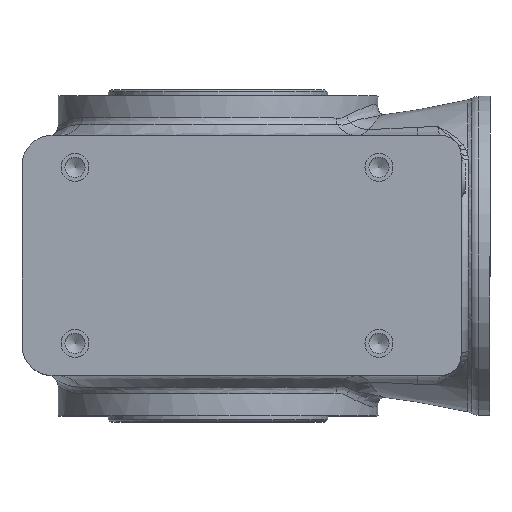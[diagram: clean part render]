
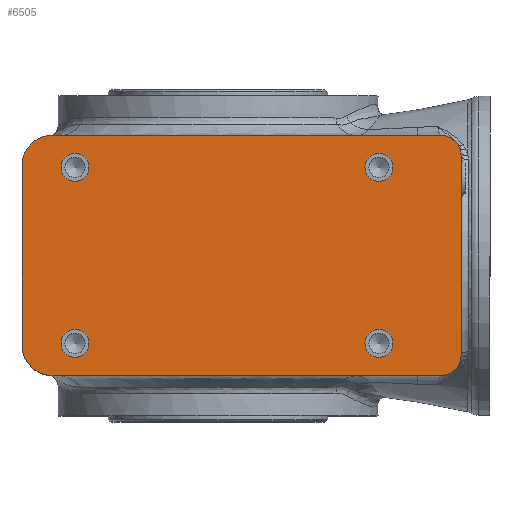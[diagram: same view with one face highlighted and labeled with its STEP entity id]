
A CAD part, front view. The second image highlights one B-rep face of the part: STEP entity #6505.
In plain terms, the highlighted planar face has unit normal (0, -1, 0.002).
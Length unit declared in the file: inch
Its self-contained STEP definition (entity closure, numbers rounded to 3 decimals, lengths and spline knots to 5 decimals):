
#589=LINE('',#12678,#769);
#591=LINE('',#12714,#771);
#593=LINE('',#12768,#773);
#594=LINE('',#12769,#774);
#769=VECTOR('',#8312,7.65748);
#771=VECTOR('',#8316,7.65748);
#773=VECTOR('',#8328,3.54331);
#774=VECTOR('',#8329,3.93701);
#1056=FACE_BOUND('',#1898,.T.);
#1057=FACE_BOUND('',#1899,.T.);
#1058=FACE_BOUND('',#1900,.T.);
#1059=FACE_BOUND('',#1901,.T.);
#1373=FACE_OUTER_BOUND('',#1897,.T.);
#1897=EDGE_LOOP('',(#4832,#4833,#4834,#4835,#4836,#4837,#4838,#4839));
#1898=EDGE_LOOP('',(#4840));
#1899=EDGE_LOOP('',(#4841));
#1900=EDGE_LOOP('',(#4842));
#1901=EDGE_LOOP('',(#4843));
#2282=CIRCLE('',#6875,0.59055);
#2292=CIRCLE('',#6889,0.59055);
#2299=CIRCLE('',#6900,0.27559);
#2302=CIRCLE('',#6905,0.27559);
#2307=CIRCLE('',#6913,0.27559);
#2311=CIRCLE('',#6921,0.27559);
#2414=CIRCLE('',#7112,0.3937);
#2416=CIRCLE('',#7115,0.3937);
#2738=VERTEX_POINT('',#9783);
#2739=VERTEX_POINT('',#9784);
#2746=VERTEX_POINT('',#9951);
#2747=VERTEX_POINT('',#9952);
#2781=VERTEX_POINT('',#11027);
#2784=VERTEX_POINT('',#11035);
#2789=VERTEX_POINT('',#11048);
#2793=VERTEX_POINT('',#11060);
#2919=VERTEX_POINT('',#12672);
#2921=VERTEX_POINT('',#12711);
#2926=VERTEX_POINT('',#12751);
#2929=VERTEX_POINT('',#12766);
#3362=EDGE_CURVE('',#2738,#2739,#2282,.T.);
#3377=EDGE_CURVE('',#2746,#2747,#2292,.T.);
#3427=EDGE_CURVE('',#2781,#2781,#2299,.T.);
#3430=EDGE_CURVE('',#2784,#2784,#2302,.T.);
#3435=EDGE_CURVE('',#2789,#2789,#2307,.T.);
#3439=EDGE_CURVE('',#2793,#2793,#2311,.T.);
#3623=EDGE_CURVE('',#2739,#2919,#589,.T.);
#3627=EDGE_CURVE('',#2921,#2746,#591,.T.);
#3633=EDGE_CURVE('',#2926,#2921,#2414,.T.);
#3637=EDGE_CURVE('',#2919,#2929,#2416,.T.);
#3638=EDGE_CURVE('',#2738,#2747,#593,.T.);
#3639=EDGE_CURVE('',#2929,#2926,#594,.T.);
#4832=ORIENTED_EDGE('',*,*,#3637,.F.);
#4833=ORIENTED_EDGE('',*,*,#3623,.F.);
#4834=ORIENTED_EDGE('',*,*,#3362,.F.);
#4835=ORIENTED_EDGE('',*,*,#3638,.T.);
#4836=ORIENTED_EDGE('',*,*,#3377,.F.);
#4837=ORIENTED_EDGE('',*,*,#3627,.F.);
#4838=ORIENTED_EDGE('',*,*,#3633,.F.);
#4839=ORIENTED_EDGE('',*,*,#3639,.F.);
#4840=ORIENTED_EDGE('',*,*,#3427,.T.);
#4841=ORIENTED_EDGE('',*,*,#3430,.T.);
#4842=ORIENTED_EDGE('',*,*,#3435,.T.);
#4843=ORIENTED_EDGE('',*,*,#3439,.T.);
#5825=PLANE('',#7114);
#6505=ADVANCED_FACE('',(#1373,#1056,#1057,#1058,#1059),#5825,.T.);
#6875=AXIS2_PLACEMENT_3D('',#9785,#7809,#7810);
#6889=AXIS2_PLACEMENT_3D('',#9953,#7839,#7840);
#6900=AXIS2_PLACEMENT_3D('',#11028,#7867,#7868);
#6905=AXIS2_PLACEMENT_3D('',#11036,#7877,#7878);
#6913=AXIS2_PLACEMENT_3D('',#11049,#7893,#7894);
#6921=AXIS2_PLACEMENT_3D('',#11061,#7909,#7910);
#7112=AXIS2_PLACEMENT_3D('',#12753,#8320,#8321);
#7114=AXIS2_PLACEMENT_3D('',#12765,#8324,#8325);
#7115=AXIS2_PLACEMENT_3D('',#12767,#8326,#8327);
#7809=DIRECTION('center_axis',(0.,1.,
-0.002));
#7810=DIRECTION('ref_axis',(-0.707,0.002,0.707));
#7839=DIRECTION('center_axis',(0.,1.,
-0.002));
#7840=DIRECTION('ref_axis',(-0.707,-0.002,-0.707));
#7867=DIRECTION('center_axis',(0.,1.,
-0.002));
#7868=DIRECTION('ref_axis',(1.,0.,0.));
#7877=DIRECTION('center_axis',(0.,1.,
-0.002));
#7878=DIRECTION('ref_axis',(1.,0.,0.));
#7893=DIRECTION('center_axis',(0.,1.,
-0.002));
#7894=DIRECTION('ref_axis',(1.,0.,0.));
#7909=DIRECTION('center_axis',(0.,1.,
-0.002));
#7910=DIRECTION('ref_axis',(1.,0.,0.));
#8312=DIRECTION('',(1.,0.,0.));
#8316=DIRECTION('',(-1.,0.,0.));
#8320=DIRECTION('center_axis',(0.,1.,
-0.002));
#8321=DIRECTION('ref_axis',(0.707,-0.002,-0.707));
#8324=DIRECTION('center_axis',(0.,-1.,
0.002));
#8325=DIRECTION('ref_axis',(1.,0.,0.));
#8326=DIRECTION('center_axis',(0.,1.,
-0.002));
#8327=DIRECTION('ref_axis',(0.707,0.002,0.707));
#8328=DIRECTION('',(0.,-0.002,-1.));
#8329=DIRECTION('',(0.,-0.002,-1.));
#9783=CARTESIAN_POINT('',(-3.85936,-3.35151,1.60338));
#9784=CARTESIAN_POINT('',(-3.2688,-3.35019,2.19393));
#9785=CARTESIAN_POINT('Origin',(-3.2688,-3.35151,1.60338));
#9951=CARTESIAN_POINT('',(-3.2688,-3.36078,-2.53047));
#9952=CARTESIAN_POINT('',(-3.85936,-3.35946,-1.93992));
#9953=CARTESIAN_POINT('Origin',(-3.2688,-3.35946,-1.93992));
#11027=CARTESIAN_POINT('',(3.44379,-3.35937,-1.90055));
#11028=CARTESIAN_POINT('Origin',(3.1682,-3.35937,-1.90055));
#11035=CARTESIAN_POINT('',(3.44379,-3.3516,1.56401));
#11036=CARTESIAN_POINT('Origin',(3.1682,-3.3516,1.56401));
#11048=CARTESIAN_POINT('',(-2.54046,-3.3516,1.56401));
#11049=CARTESIAN_POINT('Origin',(-2.81605,-3.3516,1.56401));
#11060=CARTESIAN_POINT('',(-2.54046,-3.35937,-1.90055));
#11061=CARTESIAN_POINT('Origin',(-2.81605,-3.35937,-1.90055));
#12672=CARTESIAN_POINT('',(4.38868,-3.35019,2.19393));
#12678=CARTESIAN_POINT('',(3.92608,-3.35019,2.19393));
#12711=CARTESIAN_POINT('',(4.38868,-3.36078,-2.53047));
#12714=CARTESIAN_POINT('',(-4.21369,-3.36078,-2.53047));
#12751=CARTESIAN_POINT('',(4.78238,-3.3599,-2.13677));
#12753=CARTESIAN_POINT('Origin',(4.38868,-3.3599,-2.13677));
#12765=CARTESIAN_POINT('Origin',(-4.21369,-3.35548,-0.16827));
#12766=CARTESIAN_POINT('',(4.78238,-3.35107,1.80023));
#12767=CARTESIAN_POINT('Origin',(4.38868,-3.35107,1.80023));
#12768=CARTESIAN_POINT('',(-3.85936,-3.35548,-0.16827));
#12769=CARTESIAN_POINT('',(4.78238,-3.35019,2.19393));
